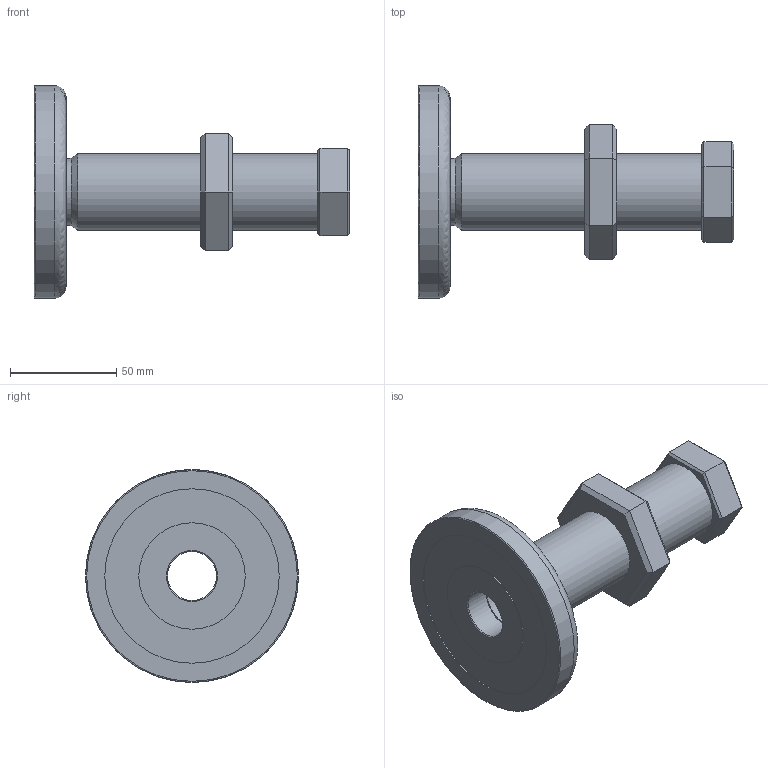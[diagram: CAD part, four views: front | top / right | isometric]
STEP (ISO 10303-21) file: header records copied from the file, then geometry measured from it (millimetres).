
FILE_DESCRIPTION(('STEP AP203'),'2;1');
FILE_NAME('12629.stp','2014-04-29T15:59:56',(''),(''),'2008.1.107','THINKDESIGN','');
FILE_SCHEMA(('CONFIG_CONTROL_DESIGN'));
Length unit declared in the file: millimetre
Bounding box: 148.29 x 100 x 100 mm (x, y, z)
Volume: 213909.7 mm3; surface area: 55681.6 mm2
Topology: 4 solids, 4 shells, 64 faces, 154 edges, 100 vertices
Faces by surface type: bspline 33, plane 22, cylinder 9
Full cylindrical faces by diameter (mm): 23 x1, 24 x2, 31.5 x1, 33 x1, 36 x1, 50 x1, 82 x1, 100 x1
Entity records: 2793 total; most frequent: CARTESIAN_POINT 1242, ORIENTED_EDGE 308, DIRECTION 273, EDGE_CURVE 154, VERTEX_POINT 100, VECTOR 97, LINE 97, AXIS2_PLACEMENT_3D 88
